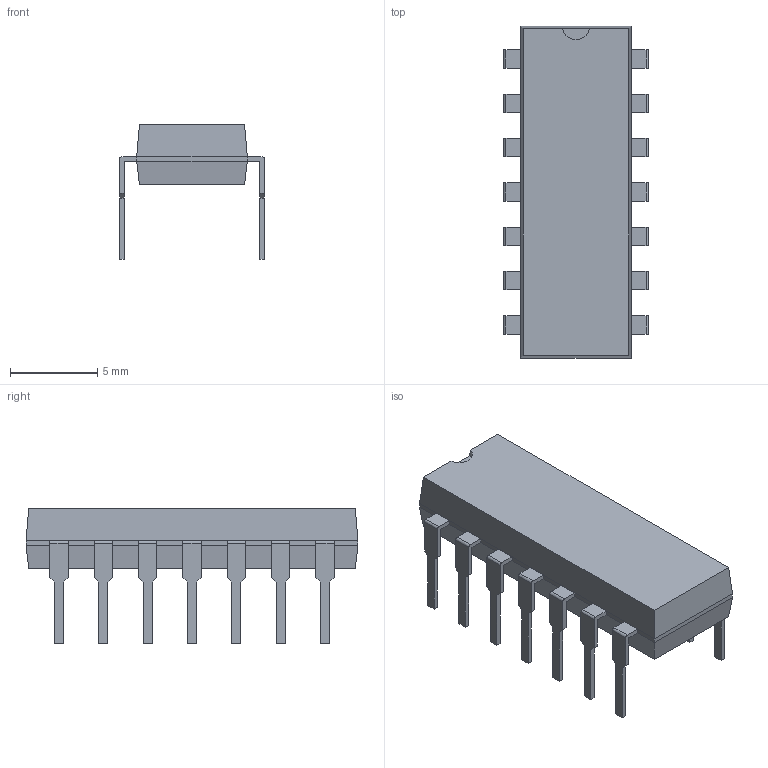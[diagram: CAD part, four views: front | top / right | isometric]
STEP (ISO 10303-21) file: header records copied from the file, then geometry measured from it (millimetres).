
FILE_DESCRIPTION(('FreeCAD Model'),'2;1');
FILE_NAME('/var/www/3D/0T/11664112.1.1.stp','2022-01-26T06:17:58',( 'Author'),(''),'Open CASCADE STEP processor 6.9','FreeCAD','Unknown' );
FILE_SCHEMA(('AUTOMOTIVE_DESIGN { 1 0 10303 214 1 1 1 1 }'));
Length unit declared in the file: millimetre
Products named in the file (3): ASSEMBLY; Body; PinsArrayLR
Assembly tree (2 placements, depth 2):
  ASSEMBLY
    Body
    PinsArrayLR
Bounding box: 8.29 x 19.02 x 7.7 mm (x, y, z)
Volume: 421.1 mm3; surface area: 595 mm2
Topology: 15 solids, 15 shells, 198 faces, 496 edges, 328 vertices
Faces by surface type: plane 183, cylinder 15
Entity records: 12465 total; most frequent: CARTESIAN_POINT 2119, DIRECTION 1904, LINE 1420, VECTOR 1420, ORIENTED_EDGE 992, PCURVE 992, DEFINITIONAL_REPRESENTATION 992, EDGE_CURVE 496
